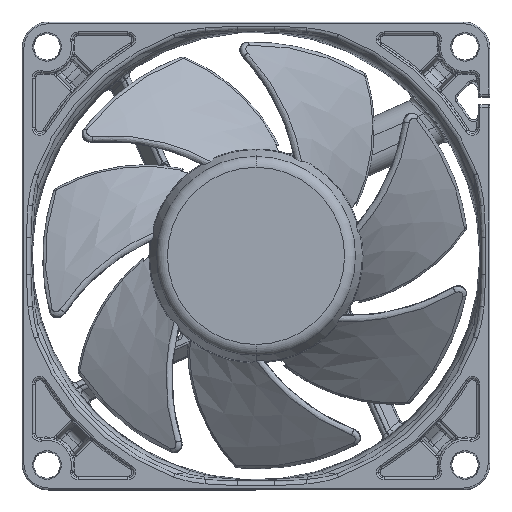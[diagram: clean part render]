
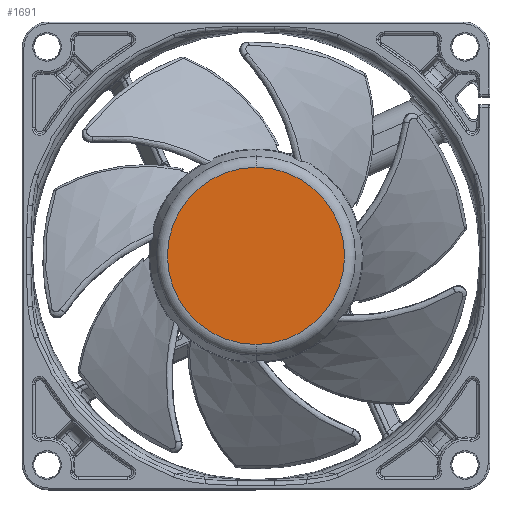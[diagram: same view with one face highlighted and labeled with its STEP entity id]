
A CAD part, top view. The second image highlights one B-rep face of the part: STEP entity #1691.
In plain terms, the highlighted planar face has unit normal (0, 0, 1).
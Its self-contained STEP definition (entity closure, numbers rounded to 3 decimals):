
#474 = CARTESIAN_POINT ( 'NONE',  ( 0., -15.146, 19.3 ) ) ;
#1691 = ADVANCED_FACE ( 'NONE', ( #25424 ), #32458, .F. ) ;
#2557 = ORIENTED_EDGE ( 'NONE', *, *, #13018, .T. ) ;
#3636 = AXIS2_PLACEMENT_3D ( 'NONE', #11291, #34392, #14613 ) ;
#4405 = CARTESIAN_POINT ( 'NONE',  ( 0., 0., 19.3 ) ) ;
#5766 = DIRECTION ( 'NONE',  ( 0., 0., -1. ) ) ;
#7703 = DIRECTION ( 'NONE',  ( 0., -1., 0. ) ) ;
#11291 = CARTESIAN_POINT ( 'NONE',  ( 0., 0., 19.3 ) ) ;
#13018 = EDGE_CURVE ( 'NONE', #15349, #19582, #30109, .T. ) ;
#14613 = DIRECTION ( 'NONE',  ( 0., -1., 0. ) ) ;
#15349 = VERTEX_POINT ( 'NONE', #42219 ) ;
#19582 = VERTEX_POINT ( 'NONE', #474 ) ;
#22418 = EDGE_LOOP ( 'NONE', ( #35976, #2557 ) ) ;
#22499 = CIRCLE ( 'NONE', #3636, 15.146 ) ;
#25335 = CARTESIAN_POINT ( 'NONE',  ( 6.025, 0., 19.3 ) ) ;
#25424 = FACE_OUTER_BOUND ( 'NONE', #22418, .T. ) ;
#27444 = DIRECTION ( 'NONE',  ( 0., 0., 1. ) ) ;
#30032 = AXIS2_PLACEMENT_3D ( 'NONE', #25335, #5766, #35460 ) ;
#30109 = CIRCLE ( 'NONE', #42043, 15.146 ) ;
#32458 = PLANE ( 'NONE',  #30032 ) ;
#34392 = DIRECTION ( 'NONE',  ( 0., 0., 1. ) ) ;
#35460 = DIRECTION ( 'NONE',  ( 0., 1., 0. ) ) ;
#35976 = ORIENTED_EDGE ( 'NONE', *, *, #39459, .T. ) ;
#39459 = EDGE_CURVE ( 'NONE', #19582, #15349, #22499, .T. ) ;
#42043 = AXIS2_PLACEMENT_3D ( 'NONE', #4405, #27444, #7703 ) ;
#42219 = CARTESIAN_POINT ( 'NONE',  ( 0., 15.146, 19.3 ) ) ;
